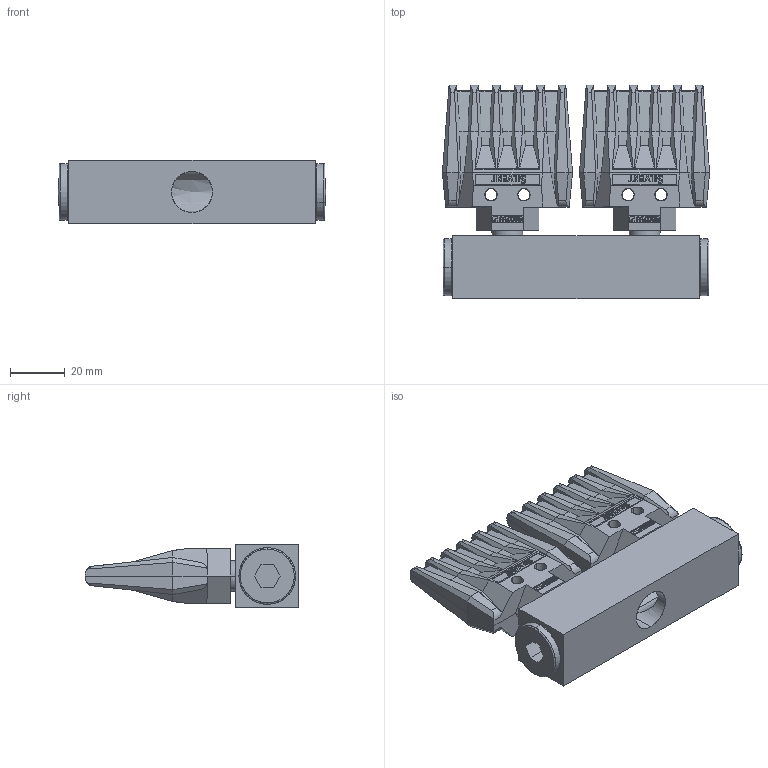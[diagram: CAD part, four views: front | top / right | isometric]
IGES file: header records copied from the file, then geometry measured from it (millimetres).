
Start section: SolidWorks IGES file using analytic representation for surfaces
Global section: file name: C:\PDMVault\Import\Original drawings\392 W-Z.IGS; native system: SolidWorks 2021; preprocessor: SolidWorks 2021; author: p.jaasko; date: 230323.100453; units: millimetre
Bounding box: 97.46 x 77.91 x 23 mm (x, y, z)
Surface area: 31822.4 mm2 (no closed solid volume)
Topology: 0 solids, 0 shells, 1220 faces, 10642 edges, 10642 vertices
Faces by surface type: bspline 1092, revolution 128
